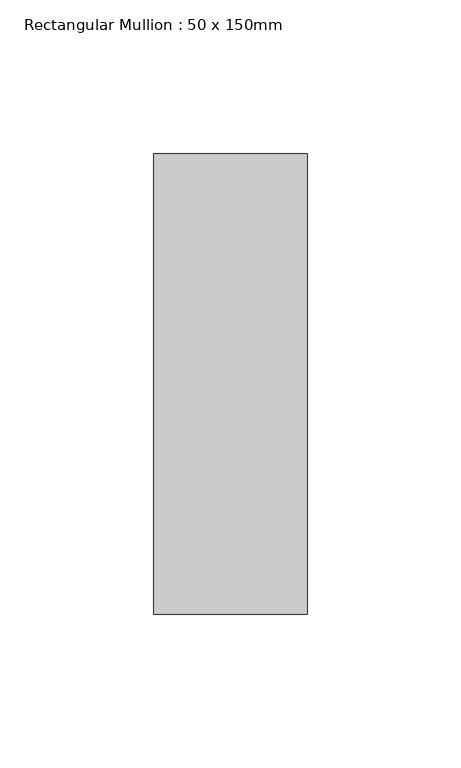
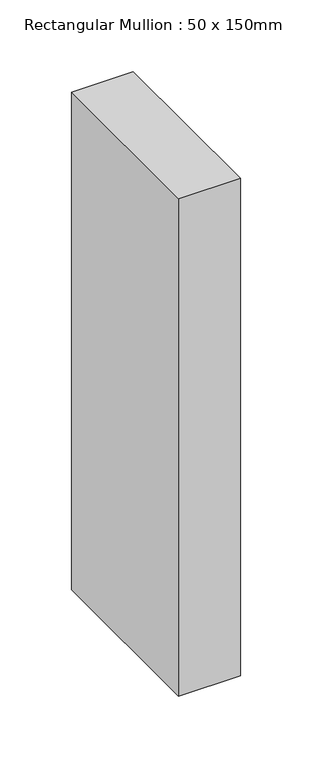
"""IFC4 building model written with IfcOpenShell, lengths in millimetres: member geometry, Rectangular Mullion : 50 x 150mm."""

from ifc_helpers import new_model, si_unit, frame, origin, place, context, project, spatial, polyline, outline, extrude, source, transform, mapped, element, save


def rectangular_mullion_50_x_150mm_1d8f0c1a(model_context):
    return source(origin(), model_context, "Body", "SweptSolid", [
        extrude(outline(polyline([(25.0, 75.0), (25.0, -75.0), (-25.0, -75.0), (-25.0, 75.0), (25.0, 75.0)])), frame((0.0, 0.0, -425.0000002), z_axis=(0.0, 0.0, 1.0), x_axis=(1.0, 0.0, 0.0)), (0.0, 0.0, 1.0), 425.0000002),
    ])


if __name__ == "__main__":
    model = new_model("IFC4")
    model_context = context("Model", 3, world=origin())
    ifc_project = project(units=[si_unit("LENGTHUNIT", "METRE", prefix="MILLI")], contexts=[model_context])
    site = spatial("IfcSite", under=ifc_project)
    building = spatial("IfcBuilding", under=site)
    placement = place(None, origin())
    rectangular_mullion_50_x_150mm_shape = rectangular_mullion_50_x_150mm_1d8f0c1a(model_context)
    element("IfcMember", 1, ObjectType="Rectangular Mullion : 50 x 150mm", at=placement, inside=building, context=model_context, shape_type="MappedRepresentation", body=[
        mapped(rectangular_mullion_50_x_150mm_shape, transform((0.0, 0.0, 0.0), x_axis=(1.0, 0.0, 0.0), y_axis=(0.0, 1.0, 0.0), z_axis=(0.0, 0.0, 1.0))),
    ])
    save(model, "model.ifc")
